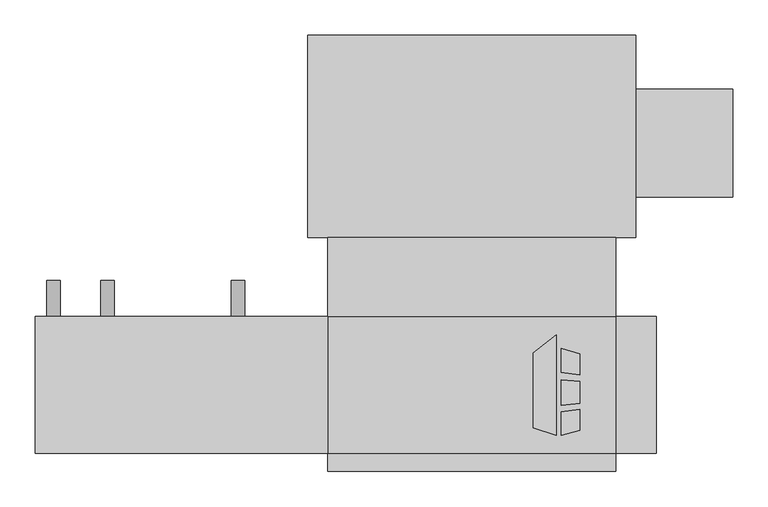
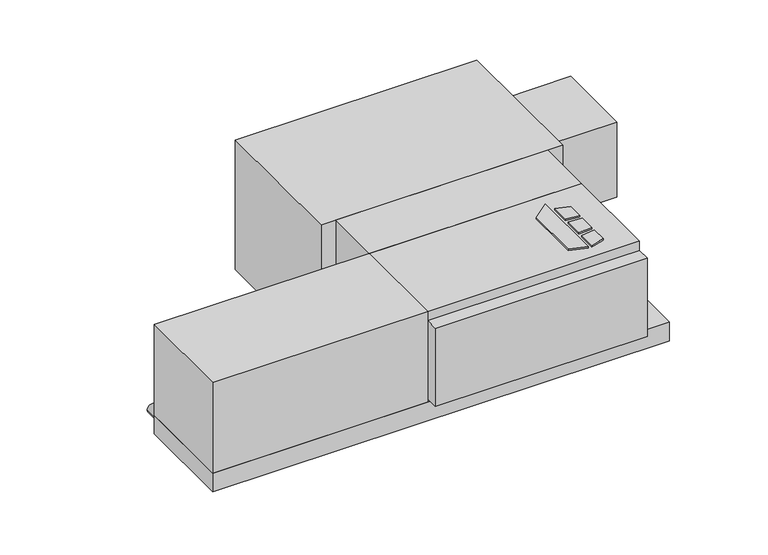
"""IFC4 building model written with IfcOpenShell, lengths in millimetres: proxy geometry, Concealed_Horizontal_Fan_Coil_Unit_With_Plenum_-_CPF_-_IEC_-_2-Pipe_LH : Size 02 - 115v/60Hz/1Ph - 4/1 Coil."""

import ifcopenshell
import ifcopenshell.guid

model = None  # the IFC model being written
_history = None  # IfcOwnerHistory: only IFC2X3 demands one
_inside = {}  # id of a spatial element -> (the spatial element, [elements in it])
_under = {}  # id of a project, library or spatial element -> (it, [spatial elements below it])
_declared = {}  # id of a project -> (the project, [libraries it declares])
_typed = {}  # id of a type object -> (the type object, [elements of that type])
_made_of = {}  # id of a material, layer set ... -> (it, [elements and type objects made of it])


def new_model(schema):
    """Start an empty IFC model of exactly this schema.

    Asked for "IFC4X3", IfcOpenShell would pick the latest addendum, in which some entities
    have other attributes; the version numbers below select the first issue.
    IFC2X3 requires an IfcOwnerHistory on every rooted entity: one is made here for all.
    """
    global model, _history
    if schema == "IFC4X3":
        model = ifcopenshell.file(schema_version=(4, 3, 0, 0))
    else:
        model = ifcopenshell.file(schema=schema)
    _inside.clear()
    _under.clear()
    _declared.clear()
    _typed.clear()
    _made_of.clear()
    _history = None
    if model.schema == "IFC2X3":
        org = make("IfcOrganization", Name="unknown")
        user = make(
            "IfcPersonAndOrganization",
            ThePerson=make("IfcPerson", FamilyName="unknown"),
            TheOrganization=org,
        )
        app = make(
            "IfcApplication",
            ApplicationDeveloper=org,
            Version="unknown",
            ApplicationFullName="unknown",
            ApplicationIdentifier="unknown",
        )
        _history = make(
            "IfcOwnerHistory",
            OwningUser=user,
            OwningApplication=app,
            ChangeAction="ADDED",
            CreationDate=0,
        )
    return model


def make(cls, **values):
    """One entity of the class cls with the attributes given. An attribute that is None is left unset."""
    return model.create_entity(
        cls, **{name: value for name, value in values.items() if value is not None}
    )


def rooted(cls, **values):
    """An entity with a GlobalId (a new one), such as an element, a storey or a relation."""
    return make(cls, GlobalId=ifcopenshell.guid.new(), OwnerHistory=_history, **values)


def si_unit(unit_type, name, prefix=None):
    """IfcSIUnit, for example si_unit("LENGTHUNIT", "METRE", prefix="MILLI")."""
    return make("IfcSIUnit", UnitType=unit_type, Prefix=prefix, Name=name)


def assignment(units):
    """IfcUnitAssignment: the units of a project."""
    return None if units is None else make("IfcUnitAssignment", Units=units)


def point(xyz):
    """IfcCartesianPoint."""
    return None if xyz is None else make("IfcCartesianPoint", Coordinates=xyz)


def direction(xyz):
    """IfcDirection."""
    return None if xyz is None else make("IfcDirection", DirectionRatios=xyz)


def frame(location, z_axis=None, x_axis=None):
    """IfcAxis2Placement3D, a coordinate frame: its origin and axes. An axis left out is left unset."""
    return make(
        "IfcAxis2Placement3D",
        Location=point(location),
        Axis=direction(z_axis),
        RefDirection=direction(x_axis),
    )


def frame_2d(location, x_axis=None):
    """IfcAxis2Placement2D, a coordinate frame in the plane: its origin and x axis."""
    return make(
        "IfcAxis2Placement2D", Location=point(location), RefDirection=direction(x_axis)
    )


def origin():
    """The frame at (0, 0, 0) with its axes left unset."""
    return frame((0.0, 0.0, 0.0))


def origin_with_axes():
    """The frame at (0, 0, 0) with the z axis (0, 0, 1) and the x axis (1, 0, 0) written out."""
    return frame((0.0, 0.0, 0.0), z_axis=(0.0, 0.0, 1.0), x_axis=(1.0, 0.0, 0.0))


def place(relative_to, where):
    """IfcLocalPlacement: puts the frame where relative to a parent placement (None: the world)."""
    return make(
        "IfcLocalPlacement", PlacementRelTo=relative_to, RelativePlacement=where
    )


def context(
    kind, dimensions, precision=None, world=None, true_north=None, identifier=None
):
    """IfcGeometricRepresentationContext, for example the 3D "Model" context."""
    return make(
        "IfcGeometricRepresentationContext",
        ContextIdentifier=identifier,
        ContextType=kind,
        CoordinateSpaceDimension=dimensions,
        Precision=precision,
        WorldCoordinateSystem=world,
        TrueNorth=true_north,
    )


def project(units=None, contexts=None):
    """IfcProject with its units and contexts."""
    return rooted(
        "IfcProject",
        Name="project",
        RepresentationContexts=contexts,
        UnitsInContext=assignment(units),
    )


def spatial(cls, under=None, at=None, **own):
    """A site, building, storey or space (cls), placed at a placement, below another one or the project."""
    s = rooted(cls, ObjectPlacement=at, **own)
    if under is not None:
        _under.setdefault(under.id(), (under, []))[1].append(s)
    return s


def polyline(points):
    """IfcPolyline through the points."""
    return make("IfcPolyline", Points=[point(p) for p in points])


def circle_curve(where, radius):
    """IfcCircle in the frame where."""
    return make("IfcCircle", Position=where, Radius=radius)


def trimmed(basis, trim1, trim2, sense, master):
    """IfcTrimmedCurve: the piece of a basis curve between two trims."""
    return make(
        "IfcTrimmedCurve",
        BasisCurve=basis,
        Trim1=trim1,
        Trim2=trim2,
        SenseAgreement=sense,
        MasterRepresentation=master,
    )


def segment(curve, same_sense, transition):
    """IfcCompositeCurveSegment."""
    return make(
        "IfcCompositeCurveSegment",
        Transition=transition,
        SameSense=same_sense,
        ParentCurve=curve,
    )


def composite_curve(segments, self_intersect=None):
    """IfcCompositeCurve: segments joined end to end."""
    return make("IfcCompositeCurve", Segments=segments, SelfIntersect=self_intersect)


def outline(outer, holes=None, kind="AREA"):
    """IfcArbitraryClosedProfileDef: a profile drawn as a closed curve; with holes, ...WithVoids."""
    if holes is None:
        return make("IfcArbitraryClosedProfileDef", ProfileType=kind, OuterCurve=outer)
    return make(
        "IfcArbitraryProfileDefWithVoids",
        ProfileType=kind,
        OuterCurve=outer,
        InnerCurves=holes,
    )


def extrude(swept, where, along, depth):
    """IfcExtrudedAreaSolid: the profile swept, set in the frame where, extruded along a direction by depth."""
    return make(
        "IfcExtrudedAreaSolid",
        SweptArea=swept,
        Position=where,
        ExtrudedDirection=direction(along),
        Depth=depth,
    )


def shape(context_of_items, identifier, shape_type, items):
    """IfcShapeRepresentation: the items that make up one representation, for example the "Body"."""
    return make(
        "IfcShapeRepresentation",
        ContextOfItems=context_of_items,
        RepresentationIdentifier=identifier,
        RepresentationType=shape_type,
        Items=items,
    )


def source(mapping_origin, context_of_items, identifier, shape_type, items):
    """IfcRepresentationMap: a shape defined once, which mapped items show again and again."""
    return make(
        "IfcRepresentationMap",
        MappingOrigin=mapping_origin,
        MappedRepresentation=shape(context_of_items, identifier, shape_type, items),
    )


def transform(
    local_origin,
    x_axis=None,
    y_axis=None,
    z_axis=None,
    scale=None,
    scale2=None,
    scale3=None,
    uniform=True,
):
    """IfcCartesianTransformationOperator3D, or its non-uniform kind. x_axis, y_axis, z_axis: its Axis1, 2, 3."""
    if uniform:
        return make(
            "IfcCartesianTransformationOperator3D",
            Axis1=direction(x_axis),
            Axis2=direction(y_axis),
            LocalOrigin=point(local_origin),
            Scale=scale,
            Axis3=direction(z_axis),
        )
    return make(
        "IfcCartesianTransformationOperator3DnonUniform",
        Axis1=direction(x_axis),
        Axis2=direction(y_axis),
        LocalOrigin=point(local_origin),
        Scale=scale,
        Axis3=direction(z_axis),
        Scale2=scale2,
        Scale3=scale3,
    )


def mapped(mapping_source, mapping_target):
    """IfcMappedItem: shows the shape of a source again, moved by a transform."""
    return make(
        "IfcMappedItem", MappingSource=mapping_source, MappingTarget=mapping_target
    )


def made_of(thing, what):
    """Note that an element or type object is made of a material, layer set ...; save() writes the relation."""
    if what is not None:
        _made_of.setdefault(what.id(), (what, []))[1].append(thing)
    return thing


def element(
    cls,
    number,
    at=None,
    inside=None,
    cuts=None,
    type_object=None,
    material=None,
    context=None,
    identifier="Body",
    shape_type=None,
    held_by="IfcProductDefinitionShape",
    body=None,
    shapes=None,
    **own,
):
    """One element of the class cls, such as IfcWall. Its Tag is "e" and its number.

    at: its placement. inside: the storey or other place that contains it. cuts: it is an
    opening in that element (IfcRelVoidsElement). A single representation is given by context,
    identifier, shape_type and body (its items); several are given by shapes. held_by: the class
    of the entity that holds the representations. save() writes the other relations.
    """
    e = rooted(cls, Tag="e%d" % number, ObjectPlacement=at, **own)
    if body is not None:
        shapes = [shape(context, identifier, shape_type, body)]
    if shapes is not None:
        e.Representation = make(held_by, Representations=shapes)
    if inside is not None:
        _inside.setdefault(inside.id(), (inside, []))[1].append(e)
    if cuts is not None:
        rooted(
            "IfcRelVoidsElement", RelatingBuildingElement=cuts, RelatedOpeningElement=e
        )
    if type_object is not None:
        _typed.setdefault(type_object.id(), (type_object, []))[1].append(e)
    return made_of(e, material)


def aggregate(whole, parts):
    """IfcRelAggregates: a whole, such as a stair, and the parts it consists of."""
    return rooted("IfcRelAggregates", RelatingObject=whole, RelatedObjects=parts)


def save(model, path):
    """Write the relations noted so far, then the file.

    IfcRelAggregates (storeys below a building ...), IfcRelContainedInSpatialStructure (elements
    in a storey), IfcRelDefinesByType, IfcRelAssociatesMaterial and IfcRelDeclares: one each for
    every whole, place, type object, material and project.
    """
    for whole, parts in _under.values():
        aggregate(whole, parts)
    for where, things in _inside.values():
        rooted(
            "IfcRelContainedInSpatialStructure",
            RelatedElements=things,
            RelatingStructure=where,
        )
    for kind, things in _typed.values():
        rooted("IfcRelDefinesByType", RelatedObjects=things, RelatingType=kind)
    for what, things in _made_of.values():
        rooted("IfcRelAssociatesMaterial", RelatedObjects=things, RelatingMaterial=what)
    for by, libraries in _declared.values():
        rooted("IfcRelDeclares", RelatingContext=by, RelatedDefinitions=libraries)
    model.write(path)


def mechanical_equipment_e7685a4b(model_context):
    return source(origin(), model_context, "Body", "SweptSolid", [
        extrude(outline(polyline([(239.4019761, -193.0453476), (271.9602728, -167.6080184), (271.9602728, -309.5625), (239.4019761, -299.3429201), (239.4019761, -193.0453476)])), origin_with_axes(), (0.0, 0.0, 1.0), 3.175),
        extrude(outline(polyline([(278.7186058, -220.917352), (278.7186058, -186.4374379), (304.8, -194.6240115), (304.8, -224.1197446), (278.7186058, -220.917352)])), origin_with_axes(), (0.0, 0.0, 1.0), 3.175),
        extrude(outline(polyline([(304.8, -302.5740115), (278.7186058, -309.5625), (278.7186058, -276.3411996), (304.8, -272.7993564), (304.8, -302.5740115)])), origin_with_axes(), (0.0, 0.0, 1.0), 3.175),
        extrude(outline(polyline([(304.8, -233.2013277), (304.8, -264.451483), (278.7186058, -267.192748), (278.7186058, -231.3350378), (304.8, -233.2013277)])), origin_with_axes(), (0.0, 0.0, 1.0), 3.175),
        extrude(outline(polyline([(-50.8, -30.1625), (355.6, -30.1625), (355.6, -141.2875), (-50.8, -141.2875), (-50.8, -30.1625)])), frame((0.0, 0.0, -184.15), z_axis=(0.0, 0.0, 1.0), x_axis=(1.0, 0.0, 0.0)), (0.0, 0.0, 1.0), 184.15),
        extrude(outline(polyline([(-463.55, -334.9625), (-463.55, -141.2875), (-50.8, -141.2875), (-50.8, -334.9625), (-463.55, -334.9625)])), frame((0.0, 0.0, -184.15), z_axis=(0.0, 0.0, 1.0), x_axis=(1.0, 0.0, 0.0)), (0.0, 0.0, 1.0), 184.15),
        extrude(outline(polyline([(412.75, -141.2875), (412.75, -334.9625), (-463.55, -334.9625), (-463.55, -141.2875), (412.75, -141.2875)])), frame((0.0, 0.0, -222.25), z_axis=(0.0, 0.0, 1.0), x_axis=(1.0, 0.0, 0.0)), (0.0, 0.0, 1.0), 38.1),
        extrude(outline(composite_curve([segment(trimmed(circle_curve(frame_2d((-158.75, -361.95)), 9.525), [point((-158.75, -352.425))], [point((-158.75, -371.475))], False, "CARTESIAN"), True, "CONTINUOUS"), segment(trimmed(circle_curve(frame_2d((-158.75, -361.95)), 9.525), [point((-158.75, -371.475))], [point((-158.75, -352.425))], False, "CARTESIAN"), True, "CONTINUOUS")], self_intersect=False)), frame((0.0, -141.2875, 0.0), z_axis=(0.0, 1.0, 0.0), x_axis=(0.0, 0.0, 1.0)), (0.0, 0.0, 1.0), 50.8),
        extrude(outline(composite_curve([segment(trimmed(circle_curve(frame_2d((-158.75, -177.8)), 9.525), [point((-158.75, -168.275))], [point((-158.75, -187.325))], False, "CARTESIAN"), True, "CONTINUOUS"), segment(trimmed(circle_curve(frame_2d((-158.75, -177.8)), 9.525), [point((-158.75, -187.325))], [point((-158.75, -168.275))], False, "CARTESIAN"), True, "CONTINUOUS")], self_intersect=False)), frame((0.0, -141.2875, 0.0), z_axis=(0.0, 1.0, 0.0), x_axis=(0.0, 0.0, 1.0)), (0.0, 0.0, 1.0), 50.8),
        extrude(outline(composite_curve([segment(trimmed(circle_curve(frame_2d((-209.55, -438.15)), 9.525), [point((-209.55, -447.675))], [point((-209.55, -428.625))], False, "CARTESIAN"), True, "CONTINUOUS"), segment(trimmed(circle_curve(frame_2d((-209.55, -438.15)), 9.525), [point((-209.55, -428.625))], [point((-209.55, -447.675))], False, "CARTESIAN"), True, "CONTINUOUS")], self_intersect=False)), frame((0.0, -141.2875, 0.0), z_axis=(0.0, 1.0, 0.0), x_axis=(0.0, 0.0, 1.0)), (0.0, 0.0, 1.0), 50.8),
        extrude(outline(polyline([(355.6, -334.9625), (355.6, -360.3625), (-50.8, -360.3625), (-50.8, -334.9625), (355.6, -334.9625)])), frame((0.0, 0.0, -177.8), z_axis=(0.0, 0.0, 1.0), x_axis=(1.0, 0.0, 0.0)), (0.0, 0.0, 1.0), 158.75),
        extrude(outline(polyline([(355.6, -334.9625), (-50.8, -334.9625), (-50.8, -141.2875), (355.6, -141.2875), (355.6, -334.9625)])), frame((0.0, 0.0, -184.15), z_axis=(0.0, 0.0, 1.0), x_axis=(1.0, 0.0, 0.0)), (0.0, 0.0, 1.0), 184.15),
        extrude(outline(polyline([(384.175, 26.9875), (384.175, 179.3875), (520.7, 179.3875), (520.7, 26.9875), (384.175, 26.9875)])), frame((0.0, 0.0, -187.325), z_axis=(0.0, 0.0, 1.0), x_axis=(1.0, 0.0, 0.0)), (0.0, 0.0, 1.0), 152.4),
        extrude(outline(polyline([(-79.375, 255.5875), (384.175, 255.5875), (384.175, -30.1625), (-79.375, -30.1625), (-79.375, 255.5875)])), frame((0.0, 0.0, -263.525), z_axis=(0.0, 0.0, 1.0), x_axis=(1.0, 0.0, 0.0)), (0.0, 0.0, 1.0), 263.525),
    ])


if __name__ == "__main__":
    model = new_model("IFC4")
    model_context = context("Model", 3, world=origin())
    ifc_project = project(units=[si_unit("LENGTHUNIT", "METRE", prefix="MILLI")], contexts=[model_context])
    site = spatial("IfcSite", under=ifc_project)
    building = spatial("IfcBuilding", under=site)
    placement = place(None, origin())
    mechanical_equipment_shape = mechanical_equipment_e7685a4b(model_context)
    element("IfcBuildingElementProxy", 1, Name="Concealed_Horizontal_Fan_Coil_Unit_With_Plenum_-_CPF_-_IEC_-_2-Pipe_LH : Size 02 - 115v/60Hz/1Ph - 4/1 Coil", ObjectType="Concealed_Horizontal_Fan_Coil_Unit_With_Plenum_-_CPF_-_IEC_-_2-Pipe_LH : Size 02 - 115v/60Hz/1Ph - 4/1 Coil", at=placement, inside=building, context=model_context, shape_type="MappedRepresentation", body=[
        mapped(mechanical_equipment_shape, transform((0.0, 0.0, 0.0), x_axis=(1.0, 0.0, 0.0), y_axis=(0.0, 1.0, 0.0), z_axis=(0.0, 0.0, 1.0))),
    ])
    save(model, "model.ifc")
